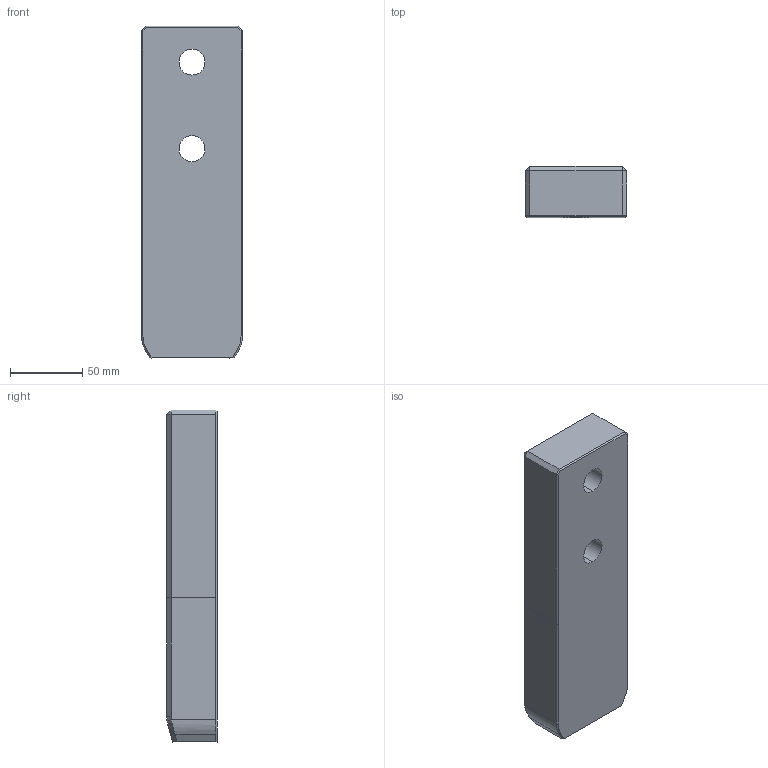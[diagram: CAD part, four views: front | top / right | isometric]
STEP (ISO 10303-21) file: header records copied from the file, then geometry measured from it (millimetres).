
FILE_DESCRIPTION((''),'2;1');
FILE_NAME('','2010-09-08T12:50:12+09:00',('misumi'),(''),'M/STEP i/f 1R2-14','CADmeister v5.1','');
FILE_SCHEMA(('AUTOMOTIVE_DESIGN'));
Length unit declared in the file: millimetre
Products named in the file (1): OGP70-230
Bounding box: 70 x 35 x 230 mm (x, y, z)
Volume: 535213.2 mm3; surface area: 55170.8 mm2
Topology: 1 solids, 1 shells, 49 faces, 114 edges, 68 vertices
Faces by surface type: plane 32, cylinder 9, cone 4, bspline 4
Entity records: 2151 total; most frequent: CARTESIAN_POINT 494, ORIENTED_EDGE 224, DIRECTION 216, COLOUR_RGB 121, CURVE_STYLE 118, PRESENTATION_STYLE_ASSIGNMENT 117, OVER_RIDING_STYLED_ITEM 114, EDGE_CURVE 112
